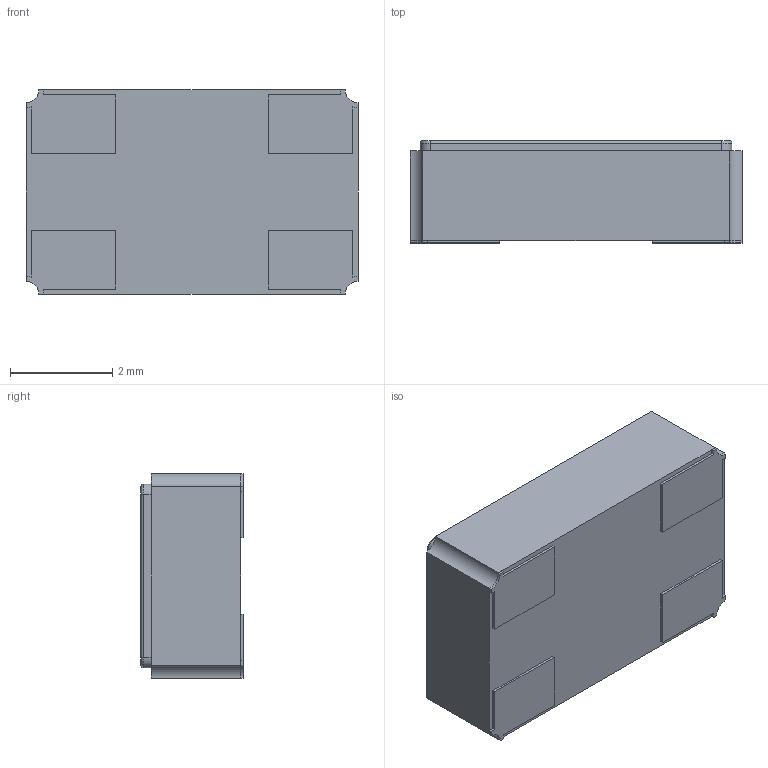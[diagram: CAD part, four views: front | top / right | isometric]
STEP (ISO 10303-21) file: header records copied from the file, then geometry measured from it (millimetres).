
FILE_DESCRIPTION (( 'STEP AP214' ), '1' );
FILE_NAME ( 'OSCCC650X400X200.STEP', '2014-04-11T12:31:19', ( '' ), ( '' ), 'FPX Expert 2013', 'PCB Libraries', '' );
FILE_SCHEMA (( 'AUTOMOTIVE_DESIGN' ));
Length unit declared in the file: millimetre
Products named in the file (1): OSCCC650X400X200
Bounding box: 6.5 x 2 x 4 mm (x, y, z)
Volume: 49.9 mm3; surface area: 107.5 mm2
Topology: 5 solids, 5 shells, 74 faces, 178 edges, 116 vertices
Faces by surface type: plane 44, cylinder 24, torus 6
Entity records: 2463 total; most frequent: DIRECTION 386, CARTESIAN_POINT 369, ORIENTED_EDGE 356, EDGE_CURVE 178, AXIS2_PLACEMENT_3D 133, VECTOR 120, LINE 120, VERTEX_POINT 116
